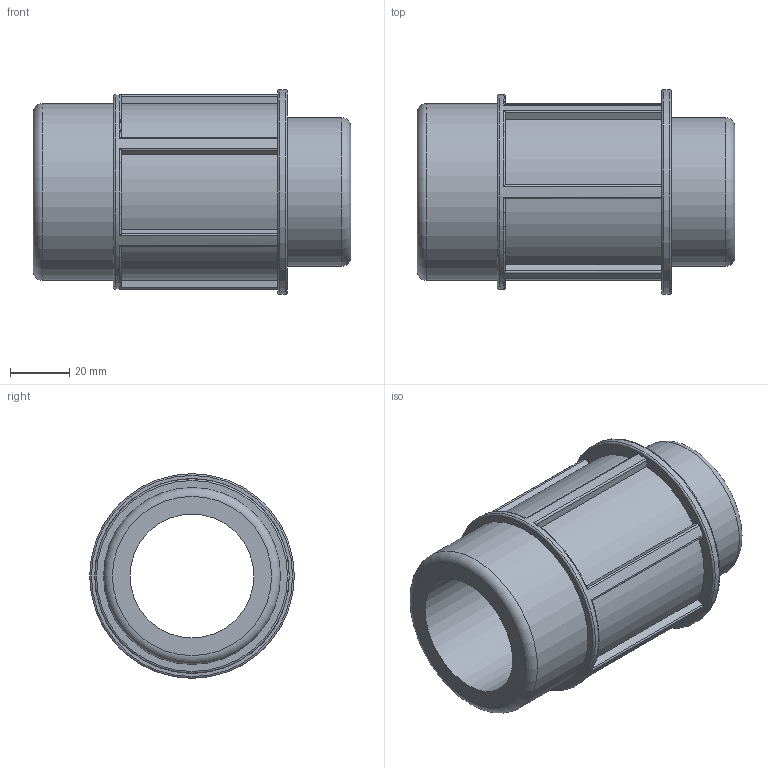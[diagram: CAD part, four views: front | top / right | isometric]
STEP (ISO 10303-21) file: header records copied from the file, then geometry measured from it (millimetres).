
FILE_DESCRIPTION(/* description */ ('PLASSON THREADED MALE ADAPTOR 50-2"'),/* implementation_level */ '2;1');
FILE_NAME(/* name */ 'C:\Dropbox\KIMPROJECTS-Inventor\99-16-3568-Processing\Silver+MF ISRAEL\078901\078901050020.ipt.stp',/* time_stamp */ '2018-04-09T13:02:02+03:00',/* author */ ('KIM'),/* organization */ (''),/* preprocessor_version */ 'ST-DEVELOPER v15.6',/* originating_system */ 'Autodesk Inventor 2015',/* authorisation */ '');
FILE_SCHEMA (('AUTOMOTIVE_DESIGN { 1 0 10303 214 3 1 1 }'));
Length unit declared in the file: millimetre
Products named in the file (1): 078901050020
Bounding box: 107 x 69 x 69 mm (x, y, z)
Volume: 142981.7 mm3; surface area: 40404.5 mm2
Topology: 1 solids, 1 shells, 57 faces, 151 edges, 99 vertices
Faces by surface type: cylinder 23, plane 23, torus 11
Full cylindrical faces by diameter (mm): 41.73 x1, 50 x1, 59.614 x1, 65.575 x1, 69 x1
Entity records: 1894 total; most frequent: CARTESIAN_POINT 488, DIRECTION 288, ORIENTED_EDGE 280, EDGE_CURVE 140, AXIS2_PLACEMENT_3D 114, VERTEX_POINT 98, EDGE_LOOP 72, LINE 60
